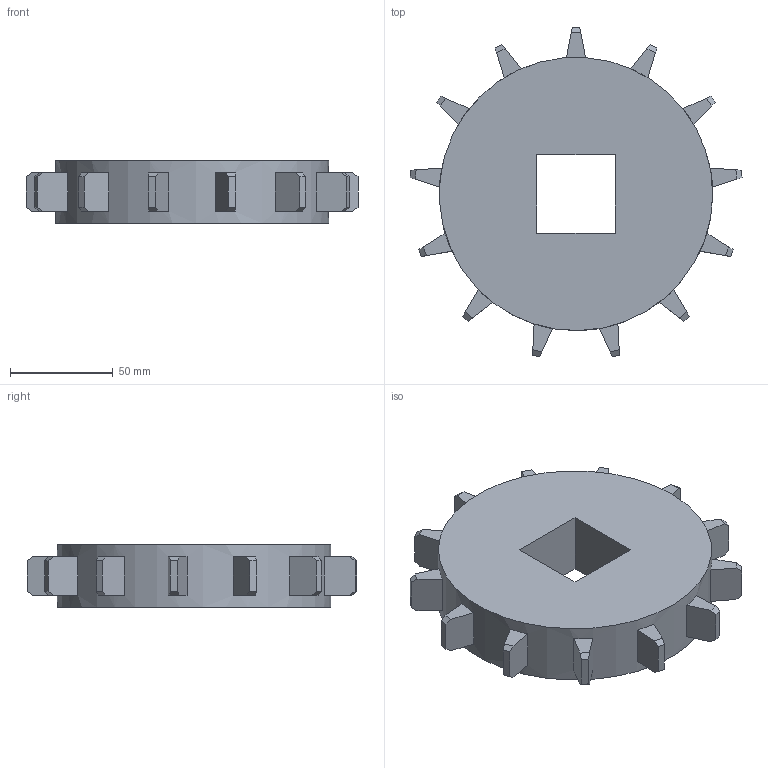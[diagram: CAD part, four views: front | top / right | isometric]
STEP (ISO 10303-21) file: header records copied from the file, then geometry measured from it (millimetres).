
FILE_DESCRIPTION((''),'2;1');
FILE_NAME('S2800_SPROCKET_62_SQ','2020-12-03T07:51:51',('rklein'),('INTRALOX'),'CREO PARAMETRIC BY PTC INC, 2019471','CREO PARAMETRIC BY PTC INC, 2019471','');
FILE_SCHEMA(('CONFIG_CONTROL_DESIGN'));
Length unit declared in the file: inch
Products named in the file (1): S2800_SPROCKET_62_SQ
Bounding box: 161.18 x 160.01 x 30.48 mm (x, y, z)
Volume: 400015.4 mm3; surface area: 50234.1 mm2
Topology: 1 solids, 1 shells, 99 faces, 252 edges, 168 vertices
Faces by surface type: plane 97, cylinder 2
Entity records: 3000 total; most frequent: CARTESIAN_POINT 519, ORIENTED_EDGE 504, DIRECTION 480, EDGE_CURVE 252, VECTOR 222, LINE 222, VERTEX_POINT 168, AXIS2_PLACEMENT_3D 129
